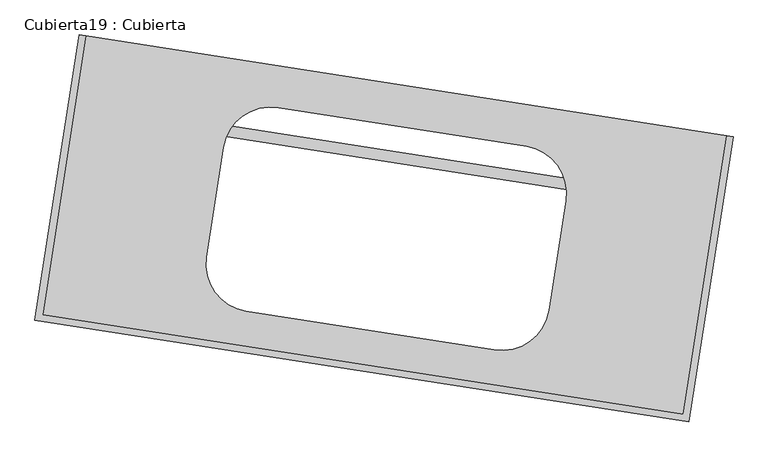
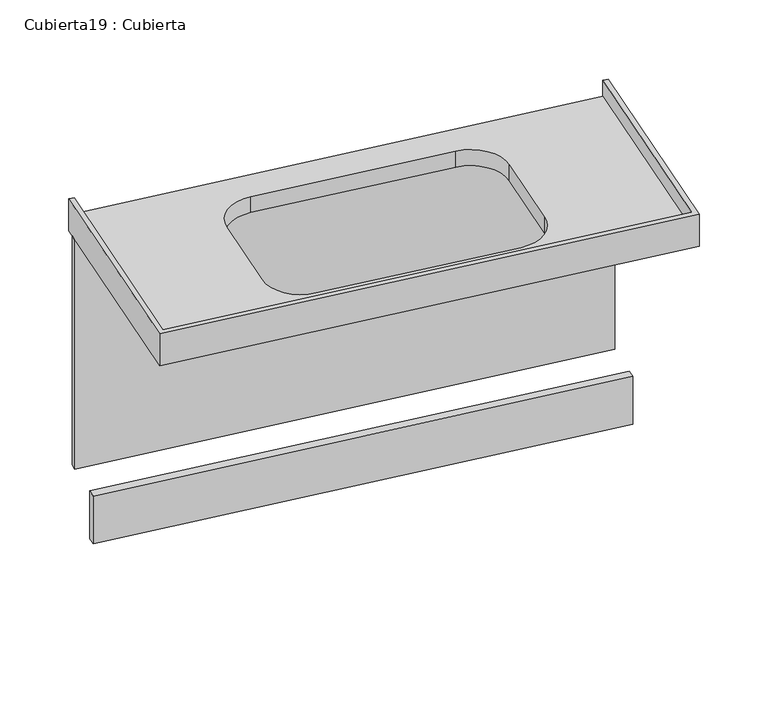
"""IFC4 building model written with IfcOpenShell, lengths in millimetres: furniture geometry, Cubierta19 : Cubierta."""

from ifc_helpers import new_model, si_unit, frame, origin, place, context, project, spatial, polyline, circle_curve, outline, extrude, source, transform, mapped, element, save
from ifc_brep_helpers import plane_surface, revolved_surface, advanced_brep


def cubierta19_cubierta_3b2d84f4(model_context):
    return source(origin(), model_context, "Body", "SolidModel", [
        extrude(outline(polyline([(-42536.0283439, -60464.5547601), (-42539.8785909, -60489.2564928), (-44012.1018536, -60259.7817736), (-44008.2516066, -60235.0800409), (-42536.0283439, -60464.5547601)])), frame((0.0, 0.0, 9600.0), z_axis=(0.0, 0.0, 1.0), x_axis=(1.0, 0.0, 0.0)), (0.0, 0.0, 1.0), 150.0),
        extrude(outline(polyline([(-42516.777109, -60341.0460966), (-42519.8573066, -60360.8074828), (-43992.0805693, -60131.3327636), (-43989.0003717, -60111.5713774), (-42516.777109, -60341.0460966)])), frame((0.0, 0.0, 9750.0), z_axis=(0.0, 0.0, 1.0), x_axis=(1.0, 0.0, 0.0)), (0.0, 0.0, 1.0), 720.0),
        advanced_brep(
        [(-42527.7479016, -60314.0342157, 10520.0), (-43970.3290851, -60089.1797929, 10520.0), (-44068.1253584, -60716.6038034, 10520.0), (-42625.5441749, -60941.4582262, 10520.0), (-43659.75312, -60340.004067, 10520.0), (-43537.550647, -60250.7597082, 10520.0), (-42979.2914881, -60337.7752899, 10520.0), (-42890.0471292, -60459.977763, 10520.0), (-42928.549599, -60706.9950899, 10520.0), (-43050.752072, -60796.2394488, 10520.0), (-43609.011231, -60709.223867, 10520.0), (-43698.2555898, -60587.021394, 10520.0), (-42613.0332835, -60958.5894141, 10470.0), (-44085.2565462, -60729.1146949, 10470.0), (-43985.1501247, -60086.8696447, 10470.0), (-42512.9268621, -60316.3443639, 10470.0), (-43659.75312, -60340.004067, 10470.0), (-43698.2555898, -60587.021394, 10470.0), (-43609.011231, -60709.223867, 10470.0), (-43050.752072, -60796.2394488, 10470.0), (-42928.549599, -60706.9950899, 10470.0), (-42890.0471292, -60459.977763, 10470.0), (-42979.2914881, -60337.7752899, 10470.0), (-43537.550647, -60250.7597082, 10470.0), (-43985.1501247, -60086.8696447, 10570.0), (-43970.3290851, -60089.1797929, 10570.0), (-42527.7479016, -60314.0342157, 10570.0), (-42512.9268619, -60316.3443639, 10570.0), (-42625.5441749, -60941.4582262, 10570.0), (-44068.1253584, -60716.6038034, 10570.0), (-42613.0332835, -60958.589414, 10570.0), (-44085.2565462, -60729.1146948, 10570.0)],
        [
            (0, 1),
            (1, 2),
            (2, 3),
            (3, 0),
            (4, 5, circle_curve(frame((-43554.0297041, -60356.4831241, 10520.0), z_axis=(0.0, 0.0, -1.0), x_axis=(0.9880693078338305, -0.15400987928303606, 0.0)), 107.0)),
            (5, 6),
            (6, 7, circle_curve(frame((-42995.7705451, -60443.4987059, 10520.0), z_axis=(0.0, 0.0, -1.0), x_axis=(0.9880693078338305, -0.15400987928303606, 0.0)), 107.0)),
            (7, 8),
            (8, 9, circle_curve(frame((-43034.273015, -60690.5160328, 10520.0), z_axis=(0.0, 0.0, -1.0), x_axis=(0.9880693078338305, -0.15400987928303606, 0.0)), 107.0)),
            (9, 10),
            (10, 11, circle_curve(frame((-43592.5321739, -60603.5004511, 10520.0), z_axis=(0.0, 0.0, -1.0), x_axis=(0.9880693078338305, -0.15400987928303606, 0.0)), 107.0)),
            (11, 4),
            (12, 13),
            (13, 14),
            (14, 15),
            (15, 12),
            (16, 17),
            (17, 18, circle_curve(frame((-43592.5321739, -60603.5004511, 10470.0), z_axis=(0.0, 0.0, 1.0), x_axis=(0.9880693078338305, -0.15400987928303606, 0.0)), 107.0)),
            (18, 19),
            (19, 20, circle_curve(frame((-43034.273015, -60690.5160328, 10470.0), z_axis=(0.0, 0.0, 1.0), x_axis=(0.9880693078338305, -0.15400987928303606, 0.0)), 107.0)),
            (20, 21),
            (21, 22, circle_curve(frame((-42995.7705451, -60443.4987059, 10470.0), z_axis=(0.0, 0.0, 1.0), x_axis=(0.9880693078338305, -0.15400987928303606, 0.0)), 107.0)),
            (22, 23),
            (23, 16, circle_curve(frame((-43554.0297041, -60356.4831241, 10470.0), z_axis=(0.0, 0.0, 1.0), x_axis=(0.9880693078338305, -0.15400987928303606, 0.0)), 107.0)),
            (14, 24),
            (24, 25),
            (25, 1),
            (0, 26),
            (26, 27),
            (27, 15),
            (28, 3),
            (2, 29),
            (29, 28),
            (30, 31),
            (31, 13),
            (12, 30),
            (11, 17),
            (16, 4),
            (10, 18),
            (9, 19),
            (8, 20),
            (7, 21),
            (6, 22),
            (5, 23),
            (27, 30),
            (28, 26),
            (29, 25),
            (24, 31),
        ],
        [
            plane_surface(frame((-42514.4669603, -60326.2250534, 10520.0), z_axis=(0.0, 0.0, 1.0), x_axis=(0.1540098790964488, 0.9880693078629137, 0.0))),
            plane_surface(frame((-42514.4669603, -60326.2250534, 10470.0), z_axis=(0.0, 0.0, -1.0), x_axis=(-0.1540098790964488, -0.9880693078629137, 0.0))),
            plane_surface(frame((-42512.9268619, -60316.3443639, 9620.0), z_axis=(0.15400987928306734, 0.9880693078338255, 0.0), x_axis=(0.0, 0.0, 1.0))),
            plane_surface(frame((-42625.5441749, -60941.4582262, 10520.0), z_axis=(0.15400987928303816, 0.9880693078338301, 0.0), x_axis=(-0.9880693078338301, 0.15400987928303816, 0.0))),
            plane_surface(frame((-42613.0332835, -60958.589414, 10570.0), z_axis=(-0.15400987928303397, -0.9880693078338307, 0.0), x_axis=(-0.9880693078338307, 0.15400987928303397, 0.0))),
            plane_surface(frame((-43698.2555898, -60587.021394, 10520.0), z_axis=(0.9880693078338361, -0.15400987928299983, 0.0), x_axis=(0.0, 0.0, -1.0))),
            revolved_surface(polyline([(-43486.80875796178, -60619.979508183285, 10470.0), (-43486.80875796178, -60619.979508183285, 10520.0)]), (-43592.5321739, -60603.5004511, 9620.0), (0.0, 0.0, -1.0000000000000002)),
            plane_surface(frame((-43050.752072, -60796.2394488, 10520.0), z_axis=(0.15400987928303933, 0.98806930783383, 0.0), x_axis=(0.0, 0.0, -1.0))),
            revolved_surface(polyline([(-42928.54959906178, -60706.99508988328, 10470.0), (-42928.54959906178, -60706.99508988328, 10520.0)]), (-43034.273015, -60690.5160328, 9620.0), (0.0, 0.0, -1.0000000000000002)),
            plane_surface(frame((-42890.0471292, -60459.977763, 10520.0), z_axis=(-0.9880693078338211, 0.15400987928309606, 0.0), x_axis=(0.0, 0.0, -1.0))),
            revolved_surface(polyline([(-42890.04712916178, -60459.97776298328, 10470.0), (-42890.04712916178, -60459.97776298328, 10520.0)]), (-42995.7705451, -60443.4987059, 9620.0), (0.0, 0.0, -1.0000000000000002)),
            plane_surface(frame((-43537.550647, -60250.7597082, 10520.0), z_axis=(-0.1540098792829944, -0.9880693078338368, 0.0), x_axis=(0.0, 0.0, -1.0))),
            revolved_surface(polyline([(-43448.30628816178, -60372.962181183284, 10470.0), (-43448.30628816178, -60372.962181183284, 10520.0)]), (-43554.0297041, -60356.4831241, 9620.0), (0.0, 0.0, -1.0000000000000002)),
            plane_surface(frame((-42512.9268619, -60316.3443639, 10570.0), z_axis=(0.988069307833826, -0.1540098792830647, 0.0), x_axis=(-0.1540098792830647, -0.988069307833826, 0.0))),
            plane_surface(frame((-42527.7479016, -60314.0342157, 10520.0), z_axis=(-0.9880693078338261, 0.1540098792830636, 0.0), x_axis=(-0.1540098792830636, -0.9880693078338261, 0.0))),
            plane_surface(frame((-42527.7479016, -60314.0342157, 10570.0), z_axis=(0.0, 0.0, 1.0), x_axis=(-0.1540098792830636, -0.9880693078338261, 0.0))),
            plane_surface(frame((-44085.2565462, -60729.1146948, 10570.0), z_axis=(-0.9880693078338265, 0.15400987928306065, 0.0), x_axis=(0.15400987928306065, 0.9880693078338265, 0.0))),
            plane_surface(frame((-44068.1253584, -60716.6038034, 10520.0), z_axis=(0.9880693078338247, -0.15400987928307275, 0.0), x_axis=(0.15400987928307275, 0.9880693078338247, 0.0))),
        ],
        [
            (0, [[1, 2, 3, 4], [5, 6, 7, 8, 9, 10, 11, 12]]),
            (1, [[13, 14, 15, 16], [17, 18, 19, 20, 21, 22, 23, 24]]),
            (2, [[-15, 25, 26, 27, -1, 28, 29, 30]]),
            (3, [[31, -3, 32, 33]]),
            (4, [[34, 35, -13, 36]]),
            (5, [[-12, 37, -17, 38]]),
            (6, [[-11, 39, -18, -37]]),
            (7, [[-10, 40, -19, -39]]),
            (8, [[-9, 41, -20, -40]]),
            (9, [[-8, 42, -21, -41]]),
            (10, [[-7, 43, -22, -42]]),
            (11, [[-6, 44, -23, -43]]),
            (12, [[-5, -38, -24, -44]]),
            (13, [[-30, 45, -36, -16]]),
            (14, [[-28, -4, -31, 46]]),
            (15, [[-29, -46, -33, 47, -26, 48, -34, -45]]),
            (16, [[-35, -48, -25, -14]]),
            (17, [[-32, -2, -27, -47]]),
        ],
    ),
    ])


if __name__ == "__main__":
    model = new_model("IFC4")
    model_context = context("Model", 3, world=origin())
    ifc_project = project(units=[si_unit("LENGTHUNIT", "METRE", prefix="MILLI")], contexts=[model_context])
    site = spatial("IfcSite", under=ifc_project)
    building = spatial("IfcBuilding", under=site)
    placement = place(None, origin())
    cubierta19_cubierta_shape = cubierta19_cubierta_3b2d84f4(model_context)
    element("IfcFurniture", 1, ObjectType="Cubierta19 : Cubierta", at=placement, inside=building, context=model_context, shape_type="MappedRepresentation", body=[
        mapped(cubierta19_cubierta_shape, transform((0.0, 0.0, 0.0), x_axis=(1.0, 0.0, 0.0), y_axis=(0.0, 1.0, 0.0), z_axis=(0.0, 0.0, 1.0))),
    ])
    save(model, "model.ifc")
